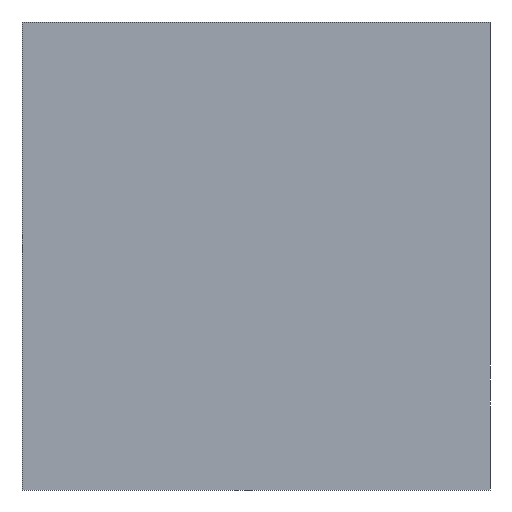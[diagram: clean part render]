
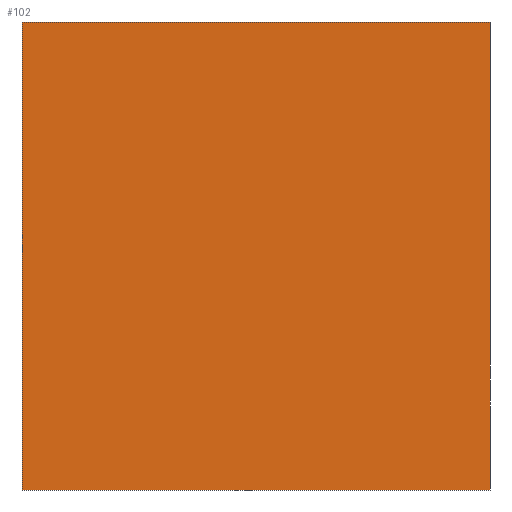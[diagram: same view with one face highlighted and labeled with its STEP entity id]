
A CAD part, front view. The second image highlights one B-rep face of the part: STEP entity #102.
In plain terms, the highlighted planar face has unit normal (0, -1, 0).
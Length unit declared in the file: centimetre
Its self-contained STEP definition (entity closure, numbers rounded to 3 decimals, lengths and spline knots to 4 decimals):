
#4 = VERTEX_POINT ( 'NONE', #221 ) ;
#34 = EDGE_CURVE ( 'NONE', #167, #405, #286, .T. ) ;
#41 = ORIENTED_EDGE ( 'NONE', *, *, #224, .F. ) ;
#50 = CARTESIAN_POINT ( 'NONE',  ( 0., 0., 1000. ) ) ;
#58 = CARTESIAN_POINT ( 'NONE',  ( 1000., 0., 0. ) ) ;
#84 = PLANE ( 'NONE',  #269 ) ;
#88 = VECTOR ( 'NONE', #151, 100. ) ;
#93 = DIRECTION ( 'NONE',  ( 1., 0., 0. ) ) ;
#102 = ADVANCED_FACE ( 'NONE', ( #389 ), #84, .F. ) ;
#113 = CARTESIAN_POINT ( 'NONE',  ( 0., 0., 1000. ) ) ;
#116 = CARTESIAN_POINT ( 'NONE',  ( 0., 0., 1000. ) ) ;
#134 = ORIENTED_EDGE ( 'NONE', *, *, #192, .F. ) ;
#136 = EDGE_CURVE ( 'NONE', #405, #186, #254, .T. ) ;
#151 = DIRECTION ( 'NONE',  ( 0., 0., -1. ) ) ;
#163 = ORIENTED_EDGE ( 'NONE', *, *, #34, .T. ) ;
#167 = VERTEX_POINT ( 'NONE', #369 ) ;
#183 = DIRECTION ( 'NONE',  ( 0., 1., 0. ) ) ;
#185 = VECTOR ( 'NONE', #330, 100. ) ;
#186 = VERTEX_POINT ( 'NONE', #58 ) ;
#192 = EDGE_CURVE ( 'NONE', #4, #186, #194, .T. ) ;
#194 = LINE ( 'NONE', #402, #185 ) ;
#213 = CARTESIAN_POINT ( 'NONE',  ( 0., 0., 0. ) ) ;
#221 = CARTESIAN_POINT ( 'NONE',  ( 1000., 0., 1000. ) ) ;
#224 = EDGE_CURVE ( 'NONE', #167, #4, #230, .T. ) ;
#226 = VECTOR ( 'NONE', #93, 100. ) ;
#230 = LINE ( 'NONE', #113, #226 ) ;
#235 = VECTOR ( 'NONE', #422, 100. ) ;
#254 = LINE ( 'NONE', #420, #235 ) ;
#256 = DIRECTION ( 'NONE',  ( 0., 0., 1. ) ) ;
#269 = AXIS2_PLACEMENT_3D ( 'NONE', #116, #183, #256 ) ;
#286 = LINE ( 'NONE', #50, #88 ) ;
#311 = ORIENTED_EDGE ( 'NONE', *, *, #136, .T. ) ;
#330 = DIRECTION ( 'NONE',  ( 0., 0., -1. ) ) ;
#340 = EDGE_LOOP ( 'NONE', ( #311, #134, #41, #163 ) ) ;
#369 = CARTESIAN_POINT ( 'NONE',  ( 0., 0., 1000. ) ) ;
#389 = FACE_OUTER_BOUND ( 'NONE', #340, .T. ) ;
#402 = CARTESIAN_POINT ( 'NONE',  ( 1000., 0., 1000. ) ) ;
#405 = VERTEX_POINT ( 'NONE', #213 ) ;
#420 = CARTESIAN_POINT ( 'NONE',  ( 0., 0., 0. ) ) ;
#422 = DIRECTION ( 'NONE',  ( 1., 0., 0. ) ) ;
